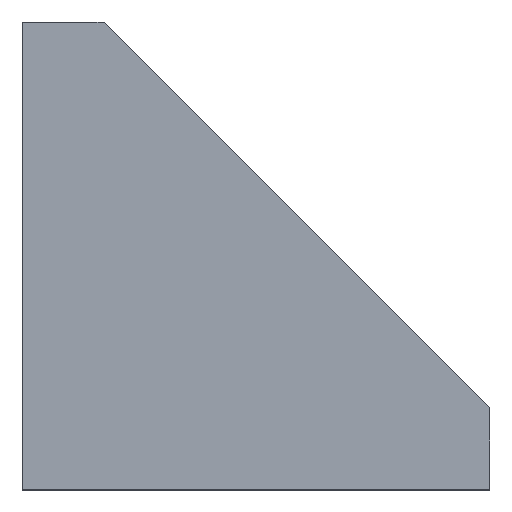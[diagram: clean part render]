
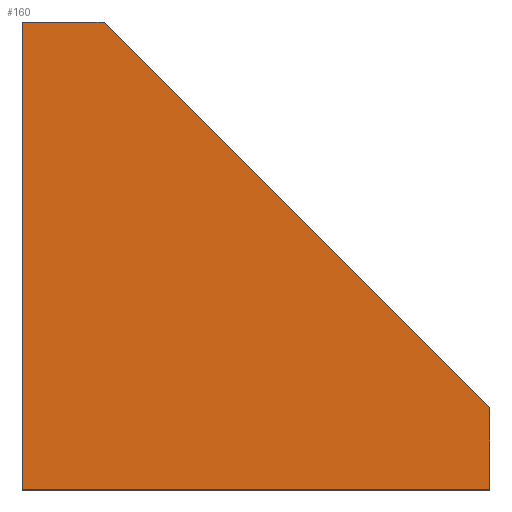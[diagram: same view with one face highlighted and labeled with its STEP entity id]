
A CAD part, top view. The second image highlights one B-rep face of the part: STEP entity #160.
In plain terms, the highlighted planar face has unit normal (0, 0, 1).
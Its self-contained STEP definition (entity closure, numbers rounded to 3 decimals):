
#39 = CARTESIAN_POINT ( 'NONE',  ( -33., 40., 12.5 ) ) ;
#40 = LINE ( 'NONE', #39, #45 ) ;
#45 = VECTOR ( 'NONE', #49, 1000. ) ;
#49 = DIRECTION ( 'NONE',  ( 0.707, -0.707, 0. ) ) ;
#60 = VECTOR ( 'NONE', #63, 1000. ) ;
#61 = CARTESIAN_POINT ( 'NONE',  ( -33., 40., 12.5 ) ) ;
#62 = LINE ( 'NONE', #64, #60 ) ;
#63 = DIRECTION ( 'NONE',  ( 0., 1., 0. ) ) ;
#64 = CARTESIAN_POINT ( 'NONE',  ( 0., 7., 12.5 ) ) ;
#82 = EDGE_CURVE ( 'NONE', #309, #299, #62, .T. ) ;
#87 = VERTEX_POINT ( 'NONE', #61 ) ;
#111 = ORIENTED_EDGE ( 'NONE', *, *, #82, .T. ) ;
#130 = EDGE_CURVE ( 'NONE', #87, #299, #40, .T. ) ;
#131 = ORIENTED_EDGE ( 'NONE', *, *, #207, .T. ) ;
#133 = ORIENTED_EDGE ( 'NONE', *, *, #191, .T. ) ;
#134 = ORIENTED_EDGE ( 'NONE', *, *, #130, .F. ) ;
#138 = EDGE_CURVE ( 'NONE', #205, #309, #391, .T. ) ;
#160 = ADVANCED_FACE ( 'NONE', ( #504 ), #503, .F. ) ;
#161 = EDGE_LOOP ( 'NONE', ( #111, #134, #133, #131, #291 ) ) ;
#187 = VERTEX_POINT ( 'NONE', #339 ) ;
#191 = EDGE_CURVE ( 'NONE', #87, #187, #448, .T. ) ;
#205 = VERTEX_POINT ( 'NONE', #539 ) ;
#207 = EDGE_CURVE ( 'NONE', #187, #205, #379, .T. ) ;
#291 = ORIENTED_EDGE ( 'NONE', *, *, #138, .T. ) ;
#299 = VERTEX_POINT ( 'NONE', #678 ) ;
#309 = VERTEX_POINT ( 'NONE', #563 ) ;
#339 = CARTESIAN_POINT ( 'NONE',  ( -40., 40., 12.5 ) ) ;
#374 = DIRECTION ( 'NONE',  ( 0., -1., 0. ) ) ;
#375 = VECTOR ( 'NONE', #374, 1000. ) ;
#376 = CARTESIAN_POINT ( 'NONE',  ( -40., 0., 12.5 ) ) ;
#379 = LINE ( 'NONE', #376, #375 ) ;
#391 = LINE ( 'NONE', #455, #410 ) ;
#400 = DIRECTION ( 'NONE',  ( -1., 0., 0. ) ) ;
#410 = VECTOR ( 'NONE', #508, 1000. ) ;
#411 = AXIS2_PLACEMENT_3D ( 'NONE', #501, #491, #400 ) ;
#445 = DIRECTION ( 'NONE',  ( -1., 0., 0. ) ) ;
#446 = VECTOR ( 'NONE', #445, 1000. ) ;
#447 = CARTESIAN_POINT ( 'NONE',  ( -40., 40., 12.5 ) ) ;
#448 = LINE ( 'NONE', #447, #446 ) ;
#455 = CARTESIAN_POINT ( 'NONE',  ( 0., 0., 12.5 ) ) ;
#491 = DIRECTION ( 'NONE',  ( 0., 0., -1. ) ) ;
#501 = CARTESIAN_POINT ( 'NONE',  ( 0., 0., 12.5 ) ) ;
#503 = PLANE ( 'NONE',  #411 ) ;
#504 = FACE_OUTER_BOUND ( 'NONE', #161, .T. ) ;
#508 = DIRECTION ( 'NONE',  ( 1., 0., 0. ) ) ;
#539 = CARTESIAN_POINT ( 'NONE',  ( -40., 0., 12.5 ) ) ;
#563 = CARTESIAN_POINT ( 'NONE',  ( 0., 0., 12.5 ) ) ;
#678 = CARTESIAN_POINT ( 'NONE',  ( 0., 7., 12.5 ) ) ;
